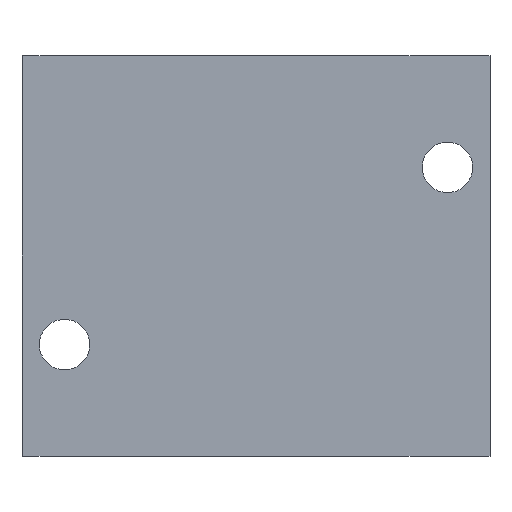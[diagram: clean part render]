
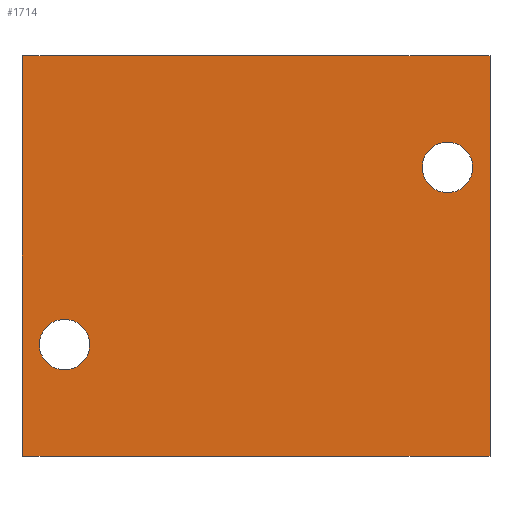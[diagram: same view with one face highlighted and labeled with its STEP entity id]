
A CAD part, front view. The second image highlights one B-rep face of the part: STEP entity #1714.
In plain terms, the highlighted planar face has unit normal (0, -1, 0).
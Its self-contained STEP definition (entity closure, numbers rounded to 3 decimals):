
#35 = AXIS2_PLACEMENT_3D ( 'NONE', #329, #1641, #1768 ) ;
#39 = EDGE_CURVE ( 'NONE', #58, #1451, #564, .T. ) ;
#42 = DIRECTION ( 'NONE',  ( 0., -1., 0. ) ) ;
#58 = VERTEX_POINT ( 'NONE', #1598 ) ;
#64 = CARTESIAN_POINT ( 'NONE',  ( 66., -44., 56.5 ) ) ;
#102 = VERTEX_POINT ( 'NONE', #335 ) ;
#138 = VERTEX_POINT ( 'NONE', #938 ) ;
#155 = VERTEX_POINT ( 'NONE', #1085 ) ;
#201 = PLANE ( 'NONE',  #663 ) ;
#205 = ORIENTED_EDGE ( 'NONE', *, *, #308, .F. ) ;
#255 = VERTEX_POINT ( 'NONE', #1405 ) ;
#308 = EDGE_CURVE ( 'NONE', #928, #102, #451, .T. ) ;
#329 = CARTESIAN_POINT ( 'NONE',  ( -54., -44., -25. ) ) ;
#335 = CARTESIAN_POINT ( 'NONE',  ( -54., -44., -17.875 ) ) ;
#376 = ORIENTED_EDGE ( 'NONE', *, *, #39, .F. ) ;
#422 = CARTESIAN_POINT ( 'NONE',  ( -66., -44., -56.5 ) ) ;
#431 = CARTESIAN_POINT ( 'NONE',  ( -66., -44., -56.5 ) ) ;
#434 = DIRECTION ( 'NONE',  ( 1., 0., 0. ) ) ;
#439 = CIRCLE ( 'NONE', #35, 7.125 ) ;
#451 = CIRCLE ( 'NONE', #926, 7.125 ) ;
#477 = CARTESIAN_POINT ( 'NONE',  ( -66., -44., 56.5 ) ) ;
#490 = LINE ( 'NONE', #64, #1602 ) ;
#520 = CARTESIAN_POINT ( 'NONE',  ( 54., -44., 25. ) ) ;
#522 = EDGE_LOOP ( 'NONE', ( #205, #700 ) ) ;
#564 = CIRCLE ( 'NONE', #661, 7.125 ) ;
#571 = CARTESIAN_POINT ( 'NONE',  ( -66., -44., 56.5 ) ) ;
#640 = FACE_BOUND ( 'NONE', #522, .T. ) ;
#661 = AXIS2_PLACEMENT_3D ( 'NONE', #1042, #42, #1465 ) ;
#663 = AXIS2_PLACEMENT_3D ( 'NONE', #1195, #1359, #1247 ) ;
#677 = EDGE_CURVE ( 'NONE', #1451, #58, #1600, .T. ) ;
#700 = ORIENTED_EDGE ( 'NONE', *, *, #1383, .F. ) ;
#715 = CARTESIAN_POINT ( 'NONE',  ( -54., -44., -25. ) ) ;
#772 = EDGE_CURVE ( 'NONE', #1140, #155, #1700, .T. ) ;
#804 = DIRECTION ( 'NONE',  ( 0., -1., 0. ) ) ;
#816 = ORIENTED_EDGE ( 'NONE', *, *, #677, .F. ) ;
#849 = EDGE_CURVE ( 'NONE', #138, #1140, #915, .T. ) ;
#875 = EDGE_CURVE ( 'NONE', #255, #155, #490, .T. ) ;
#915 = LINE ( 'NONE', #477, #1117 ) ;
#926 = AXIS2_PLACEMENT_3D ( 'NONE', #715, #1437, #1575 ) ;
#928 = VERTEX_POINT ( 'NONE', #1489 ) ;
#930 = FACE_BOUND ( 'NONE', #1704, .T. ) ;
#938 = CARTESIAN_POINT ( 'NONE',  ( -66., -44., 56.5 ) ) ;
#996 = DIRECTION ( 'NONE',  ( 1., 0., 0. ) ) ;
#1025 = EDGE_LOOP ( 'NONE', ( #1501, #1624, #1200, #1666 ) ) ;
#1042 = CARTESIAN_POINT ( 'NONE',  ( 54., -44., 25. ) ) ;
#1046 = DIRECTION ( 'NONE',  ( 0., 0., -1. ) ) ;
#1063 = CARTESIAN_POINT ( 'NONE',  ( 54., -44., 32.125 ) ) ;
#1085 = CARTESIAN_POINT ( 'NONE',  ( 66., -44., -56.5 ) ) ;
#1093 = VECTOR ( 'NONE', #434, 1000. ) ;
#1117 = VECTOR ( 'NONE', #1480, 1000. ) ;
#1140 = VERTEX_POINT ( 'NONE', #422 ) ;
#1195 = CARTESIAN_POINT ( 'NONE',  ( -66., -44., 56.5 ) ) ;
#1200 = ORIENTED_EDGE ( 'NONE', *, *, #1816, .F. ) ;
#1247 = DIRECTION ( 'NONE',  ( 0., 0., 1. ) ) ;
#1359 = DIRECTION ( 'NONE',  ( 0., 1., 0. ) ) ;
#1383 = EDGE_CURVE ( 'NONE', #102, #928, #439, .T. ) ;
#1405 = CARTESIAN_POINT ( 'NONE',  ( 66., -44., 56.5 ) ) ;
#1426 = AXIS2_PLACEMENT_3D ( 'NONE', #520, #804, #1654 ) ;
#1437 = DIRECTION ( 'NONE',  ( 0., -1., 0. ) ) ;
#1451 = VERTEX_POINT ( 'NONE', #1063 ) ;
#1465 = DIRECTION ( 'NONE',  ( 0., 0., -1. ) ) ;
#1480 = DIRECTION ( 'NONE',  ( 0., 0., -1. ) ) ;
#1485 = FACE_OUTER_BOUND ( 'NONE', #1025, .T. ) ;
#1489 = CARTESIAN_POINT ( 'NONE',  ( -54., -44., -32.125 ) ) ;
#1501 = ORIENTED_EDGE ( 'NONE', *, *, #772, .T. ) ;
#1516 = VECTOR ( 'NONE', #996, 1000. ) ;
#1575 = DIRECTION ( 'NONE',  ( 0., 0., -1. ) ) ;
#1598 = CARTESIAN_POINT ( 'NONE',  ( 54., -44., 17.875 ) ) ;
#1600 = CIRCLE ( 'NONE', #1426, 7.125 ) ;
#1602 = VECTOR ( 'NONE', #1046, 1000. ) ;
#1624 = ORIENTED_EDGE ( 'NONE', *, *, #875, .F. ) ;
#1641 = DIRECTION ( 'NONE',  ( 0., -1., 0. ) ) ;
#1654 = DIRECTION ( 'NONE',  ( 0., 0., -1. ) ) ;
#1666 = ORIENTED_EDGE ( 'NONE', *, *, #849, .T. ) ;
#1700 = LINE ( 'NONE', #431, #1516 ) ;
#1704 = EDGE_LOOP ( 'NONE', ( #376, #816 ) ) ;
#1714 = ADVANCED_FACE ( 'NONE', ( #640, #1485, #930 ), #201, .F. ) ;
#1768 = DIRECTION ( 'NONE',  ( 0., 0., -1. ) ) ;
#1816 = EDGE_CURVE ( 'NONE', #138, #255, #1830, .T. ) ;
#1830 = LINE ( 'NONE', #571, #1093 ) ;
